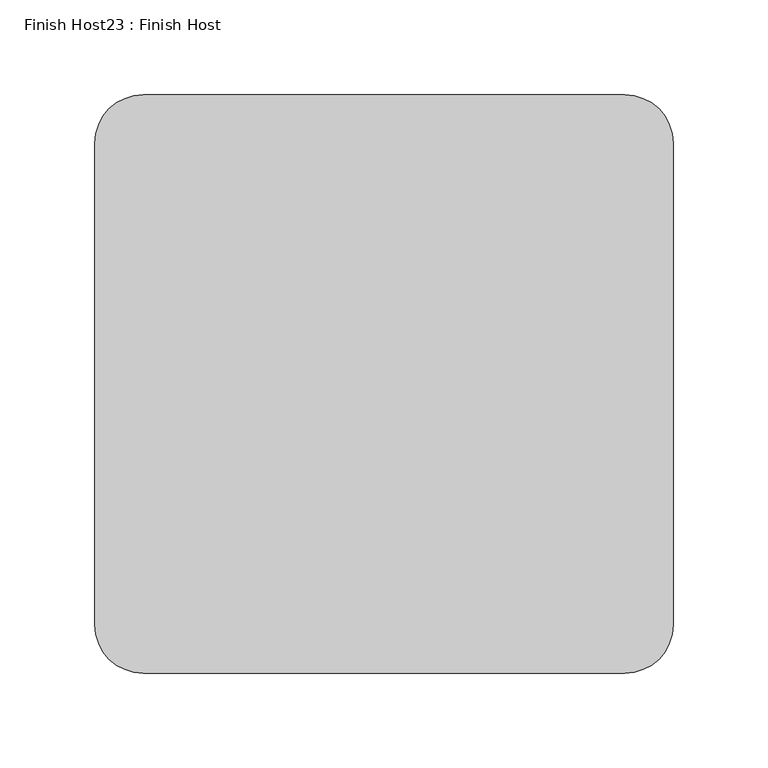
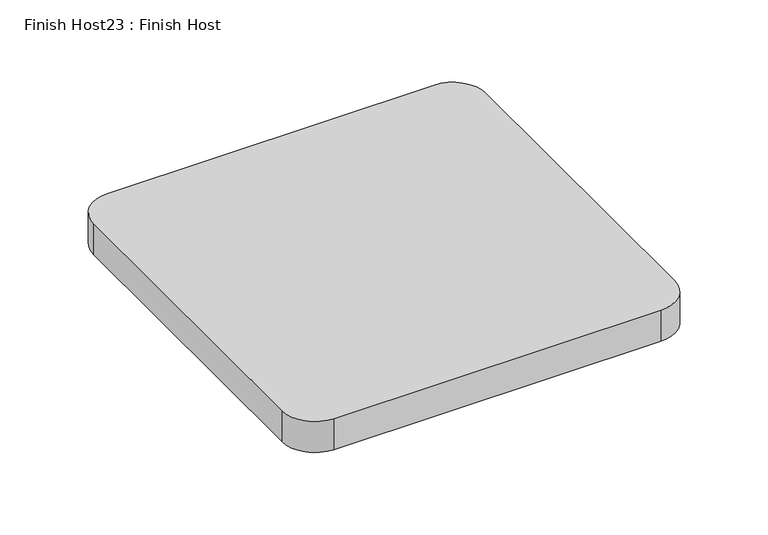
"""IFC4 building model written with IfcOpenShell, lengths in millimetres: proxy geometry, Finish Host23 : Finish Host."""

from ifc_helpers import new_model, si_unit, point, frame_2d, origin, origin_with_axes, place, context, project, spatial, polyline, circle_curve, trimmed, segment, composite_curve, outline, extrude, source, transform, mapped, element, save


def finish_host23_finish_host_5e606281(model_context):
    return source(origin(), model_context, "Body", "SweptSolid", [
        extrude(outline(composite_curve([segment(polyline([(2409.3649374, 804.1667263), (2409.3649374, 1058.1667263)]), True, "CONTINUOUS"), segment(trimmed(circle_curve(frame_2d((2434.7649374, 1058.1667263)), 25.4), [point((2409.3649374, 1058.1667263))], [point((2434.7649374, 1083.5667263))], False, "CARTESIAN"), True, "CONTINUOUS"), segment(polyline([(2434.7649374, 1083.5667263), (2688.7649374, 1083.5667263)]), True, "CONTINUOUS"), segment(trimmed(circle_curve(frame_2d((2688.7649374, 1058.1667263)), 25.4), [point((2688.7649374, 1083.5667263))], [point((2714.1649374, 1058.1667263))], False, "CARTESIAN"), True, "CONTINUOUS"), segment(polyline([(2714.1649374, 1058.1667263), (2714.1649374, 804.1667263)]), True, "CONTINUOUS"), segment(trimmed(circle_curve(frame_2d((2688.7649374, 804.1667263)), 25.4), [point((2714.1649374, 804.1667263))], [point((2688.7649374, 778.7667263))], False, "CARTESIAN"), True, "CONTINUOUS"), segment(polyline([(2688.7649374, 778.7667263), (2434.7649374, 778.7667263)]), True, "CONTINUOUS"), segment(trimmed(circle_curve(frame_2d((2434.7649374, 804.1667263)), 25.4), [point((2434.7649374, 778.7667263))], [point((2409.3649374, 804.1667263))], False, "CARTESIAN"), True, "CONTINUOUS")], self_intersect=False)), origin_with_axes(), (0.0, 0.0, 1.0), 25.4),
    ])


if __name__ == "__main__":
    model = new_model("IFC4")
    model_context = context("Model", 3, world=origin())
    ifc_project = project(units=[si_unit("LENGTHUNIT", "METRE", prefix="MILLI")], contexts=[model_context])
    site = spatial("IfcSite", under=ifc_project)
    building = spatial("IfcBuilding", under=site)
    placement = place(None, origin())
    finish_host23_finish_host_shape = finish_host23_finish_host_5e606281(model_context)
    element("IfcBuildingElementProxy", 1, Name="Finish Host23 : Finish Host", ObjectType="Finish Host23 : Finish Host", at=placement, inside=building, context=model_context, shape_type="MappedRepresentation", body=[
        mapped(finish_host23_finish_host_shape, transform((0.0, 0.0, 0.0), x_axis=(1.0, 0.0, 0.0), y_axis=(0.0, 1.0, 0.0), z_axis=(0.0, 0.0, 1.0))),
    ])
    save(model, "model.ifc")
